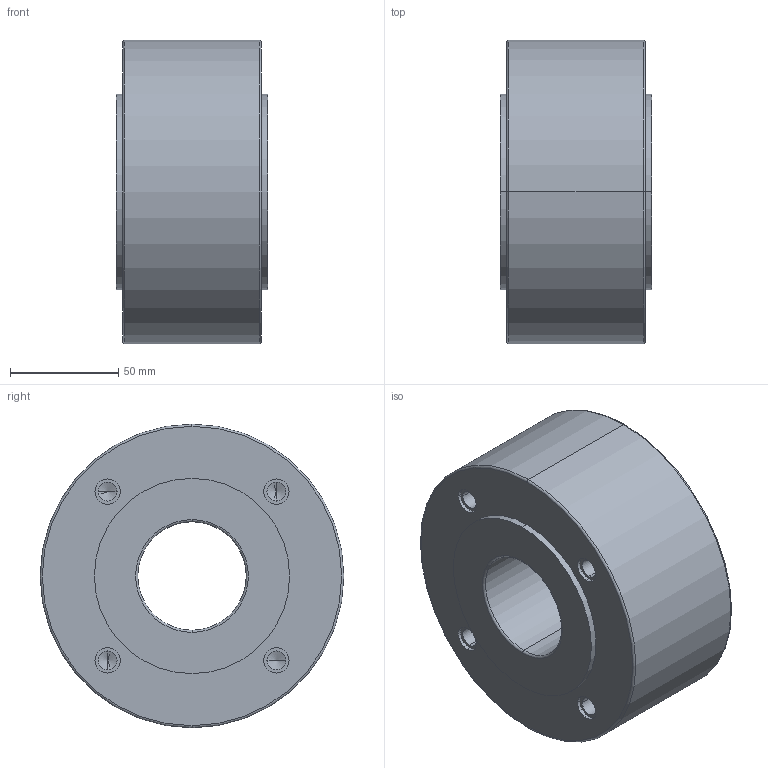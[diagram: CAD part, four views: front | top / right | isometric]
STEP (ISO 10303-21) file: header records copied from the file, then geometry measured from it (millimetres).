
FILE_DESCRIPTION (( 'STEP AP203' ), '1' );
FILE_NAME ('W8_PN06_DN050.STEP', '2012-10-31T07:08:56', ( 'luca.saino' ), ( 'Hewlett-Packard Company' ), 'SwSTEP 2.0', 'SolidWorks 2012', '' );
FILE_SCHEMA (( 'CONFIG_CONTROL_DESIGN' ));
Length unit declared in the file: millimetre
Products named in the file (1): W8_PN06_DN050
Bounding box: 70 x 140 x 140 mm (x, y, z)
Volume: 878564.4 mm3; surface area: 70220.3 mm2
Topology: 1 solids, 1 shells, 76 faces, 168 edges, 96 vertices
Faces by surface type: cylinder 40, cone 16, plane 12, torus 8
Entity records: 2085 total; most frequent: DIRECTION 402, CARTESIAN_POINT 325, ORIENTED_EDGE 304, AXIS2_PLACEMENT_3D 173, EDGE_CURVE 152, CIRCLE 96, EDGE_LOOP 96, VERTEX_POINT 96
